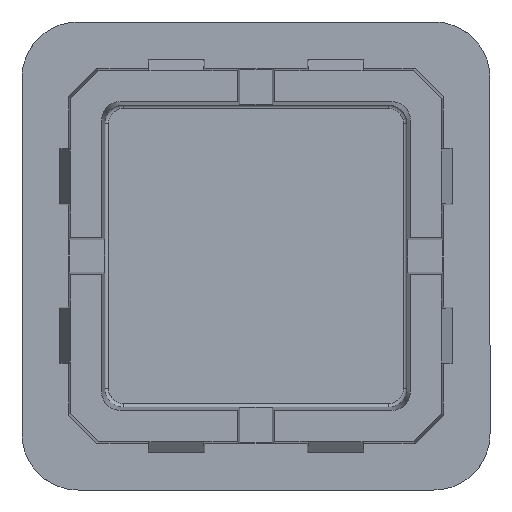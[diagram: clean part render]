
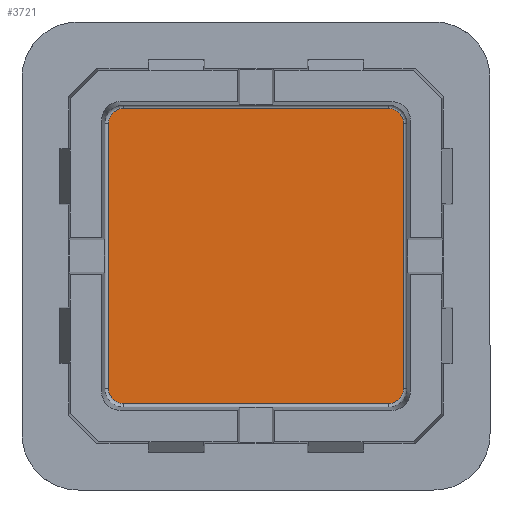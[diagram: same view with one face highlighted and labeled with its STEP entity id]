
A CAD part, front view. The second image highlights one B-rep face of the part: STEP entity #3721.
In plain terms, the highlighted planar face has unit normal (0, -1, 0).
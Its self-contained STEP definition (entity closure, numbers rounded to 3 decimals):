
#22 = VERTEX_POINT ( 'NONE', #3082 ) ;
#186 = EDGE_CURVE ( 'NONE', #352, #2638, #1889, .T. ) ;
#226 = CARTESIAN_POINT ( 'NONE',  ( -7.879, 0.5, -7.076 ) ) ;
#232 = EDGE_CURVE ( 'NONE', #2812, #1687, #1315, .T. ) ;
#352 = VERTEX_POINT ( 'NONE', #992 ) ;
#401 = VERTEX_POINT ( 'NONE', #3693 ) ;
#417 = CARTESIAN_POINT ( 'NONE',  ( -7.076, 0.5, 7.879 ) ) ;
#510 = ORIENTED_EDGE ( 'NONE', *, *, #710, .T. ) ;
#561 = CARTESIAN_POINT ( 'NONE',  ( -7.079, 0.5, 7.879 ) ) ;
#635 = DIRECTION ( 'NONE',  ( 0., 0., 1. ) ) ;
#710 = EDGE_CURVE ( 'NONE', #22, #1329, #824, .T. ) ;
#820 = VERTEX_POINT ( 'NONE', #3871 ) ;
#824 =( BOUNDED_CURVE ( )  B_SPLINE_CURVE ( 3, ( #561, #3188, #2900, #3591 ),
 .UNSPECIFIED., .F., .F. ) 
 B_SPLINE_CURVE_WITH_KNOTS ( ( 4, 4 ),
 ( 2.356, 3.927 ),
 .UNSPECIFIED. ) 
 CURVE ( )  GEOMETRIC_REPRESENTATION_ITEM ( )  RATIONAL_B_SPLINE_CURVE ( ( 1., 0.805, 0.805, 1. ) ) 
 REPRESENTATION_ITEM ( '' )  );
#885 = EDGE_CURVE ( 'NONE', #820, #352, #1448, .T. ) ;
#992 = CARTESIAN_POINT ( 'NONE',  ( 7.079, 0.5, -7.879 ) ) ;
#1051 = CARTESIAN_POINT ( 'NONE',  ( 7.879, 0.5, 7.076 ) ) ;
#1186 = VECTOR ( 'NONE', #3589, 1000. ) ;
#1188 = CARTESIAN_POINT ( 'NONE',  ( 7.879, 0.5, 7.079 ) ) ;
#1225 = DIRECTION ( 'NONE',  ( 0., 0., -1. ) ) ;
#1315 =( BOUNDED_CURVE ( )  B_SPLINE_CURVE ( 3, ( #1581, #3894, #1926, #4233 ),
 .UNSPECIFIED., .F., .F. ) 
 B_SPLINE_CURVE_WITH_KNOTS ( ( 4, 4 ),
 ( 2.356, 3.927 ),
 .UNSPECIFIED. ) 
 CURVE ( )  GEOMETRIC_REPRESENTATION_ITEM ( )  RATIONAL_B_SPLINE_CURVE ( ( 1., 0.805, 0.805, 1. ) ) 
 REPRESENTATION_ITEM ( '' )  );
#1329 = VERTEX_POINT ( 'NONE', #1469 ) ;
#1448 = LINE ( 'NONE', #3602, #1186 ) ;
#1469 = CARTESIAN_POINT ( 'NONE',  ( -7.879, 0.5, 7.079 ) ) ;
#1565 = ORIENTED_EDGE ( 'NONE', *, *, #186, .T. ) ;
#1581 = CARTESIAN_POINT ( 'NONE',  ( 7.879, 0.5, 7.079 ) ) ;
#1619 = CARTESIAN_POINT ( 'NONE',  ( 7.548, 0.5, -7.879 ) ) ;
#1631 = DIRECTION ( 'NONE',  ( -1., 0., 0. ) ) ;
#1634 = CARTESIAN_POINT ( 'NONE',  ( 7.879, 0.5, -7.548 ) ) ;
#1642 = AXIS2_PLACEMENT_3D ( 'NONE', #4257, #2602, #635 ) ;
#1687 = VERTEX_POINT ( 'NONE', #3429 ) ;
#1889 =( BOUNDED_CURVE ( )  B_SPLINE_CURVE ( 3, ( #2923, #1619, #1634, #3227 ),
 .UNSPECIFIED., .F., .F. ) 
 B_SPLINE_CURVE_WITH_KNOTS ( ( 4, 4 ),
 ( 2.356, 3.927 ),
 .UNSPECIFIED. ) 
 CURVE ( )  GEOMETRIC_REPRESENTATION_ITEM ( )  RATIONAL_B_SPLINE_CURVE ( ( 1., 0.805, 0.805, 1. ) ) 
 REPRESENTATION_ITEM ( '' )  );
#1926 = CARTESIAN_POINT ( 'NONE',  ( 7.548, 0.5, 7.879 ) ) ;
#1960 = PLANE ( 'NONE',  #1642 ) ;
#2158 = ORIENTED_EDGE ( 'NONE', *, *, #3700, .T. ) ;
#2233 = EDGE_CURVE ( 'NONE', #1329, #401, #2379, .T. ) ;
#2379 = LINE ( 'NONE', #226, #3152 ) ;
#2502 = LINE ( 'NONE', #417, #2809 ) ;
#2583 = ORIENTED_EDGE ( 'NONE', *, *, #885, .T. ) ;
#2600 = FACE_OUTER_BOUND ( 'NONE', #3907, .T. ) ;
#2602 = DIRECTION ( 'NONE',  ( 0., 1., 0. ) ) ;
#2638 = VERTEX_POINT ( 'NONE', #3406 ) ;
#2655 = VECTOR ( 'NONE', #3710, 1000. ) ;
#2671 = EDGE_CURVE ( 'NONE', #401, #820, #4130, .T. ) ;
#2809 = VECTOR ( 'NONE', #1631, 1000. ) ;
#2812 = VERTEX_POINT ( 'NONE', #1188 ) ;
#2900 = CARTESIAN_POINT ( 'NONE',  ( -7.879, 0.5, 7.548 ) ) ;
#2923 = CARTESIAN_POINT ( 'NONE',  ( 7.079, 0.5, -7.879 ) ) ;
#3009 = EDGE_CURVE ( 'NONE', #2638, #2812, #3068, .T. ) ;
#3023 = ORIENTED_EDGE ( 'NONE', *, *, #232, .T. ) ;
#3068 = LINE ( 'NONE', #1051, #2655 ) ;
#3082 = CARTESIAN_POINT ( 'NONE',  ( -7.079, 0.5, 7.879 ) ) ;
#3146 = CARTESIAN_POINT ( 'NONE',  ( -7.548, 0.5, -7.879 ) ) ;
#3152 = VECTOR ( 'NONE', #1225, 1000. ) ;
#3188 = CARTESIAN_POINT ( 'NONE',  ( -7.548, 0.5, 7.879 ) ) ;
#3227 = CARTESIAN_POINT ( 'NONE',  ( 7.879, 0.5, -7.079 ) ) ;
#3406 = CARTESIAN_POINT ( 'NONE',  ( 7.879, 0.5, -7.079 ) ) ;
#3429 = CARTESIAN_POINT ( 'NONE',  ( 7.079, 0.5, 7.879 ) ) ;
#3520 = CARTESIAN_POINT ( 'NONE',  ( -7.879, 0.5, -7.079 ) ) ;
#3536 = CARTESIAN_POINT ( 'NONE',  ( -7.879, 0.5, -7.548 ) ) ;
#3589 = DIRECTION ( 'NONE',  ( 1., 0., 0. ) ) ;
#3591 = CARTESIAN_POINT ( 'NONE',  ( -7.879, 0.5, 7.079 ) ) ;
#3602 = CARTESIAN_POINT ( 'NONE',  ( 7.076, 0.5, -7.879 ) ) ;
#3621 = ORIENTED_EDGE ( 'NONE', *, *, #2671, .T. ) ;
#3693 = CARTESIAN_POINT ( 'NONE',  ( -7.879, 0.5, -7.079 ) ) ;
#3700 = EDGE_CURVE ( 'NONE', #1687, #22, #2502, .T. ) ;
#3710 = DIRECTION ( 'NONE',  ( 0., 0., 1. ) ) ;
#3721 = ADVANCED_FACE ( 'NONE', ( #2600 ), #1960, .F. ) ;
#3871 = CARTESIAN_POINT ( 'NONE',  ( -7.079, 0.5, -7.879 ) ) ;
#3894 = CARTESIAN_POINT ( 'NONE',  ( 7.879, 0.5, 7.548 ) ) ;
#3907 = EDGE_LOOP ( 'NONE', ( #4269, #3023, #2158, #510, #4202, #3621, #2583, #1565 ) ) ;
#4130 =( BOUNDED_CURVE ( )  B_SPLINE_CURVE ( 3, ( #3520, #3536, #3146, #4177 ),
 .UNSPECIFIED., .F., .F. ) 
 B_SPLINE_CURVE_WITH_KNOTS ( ( 4, 4 ),
 ( 2.356, 3.927 ),
 .UNSPECIFIED. ) 
 CURVE ( )  GEOMETRIC_REPRESENTATION_ITEM ( )  RATIONAL_B_SPLINE_CURVE ( ( 1., 0.805, 0.805, 1. ) ) 
 REPRESENTATION_ITEM ( '' )  );
#4177 = CARTESIAN_POINT ( 'NONE',  ( -7.079, 0.5, -7.879 ) ) ;
#4202 = ORIENTED_EDGE ( 'NONE', *, *, #2233, .T. ) ;
#4233 = CARTESIAN_POINT ( 'NONE',  ( 7.079, 0.5, 7.879 ) ) ;
#4257 = CARTESIAN_POINT ( 'NONE',  ( 0., 0.5, 0. ) ) ;
#4269 = ORIENTED_EDGE ( 'NONE', *, *, #3009, .T. ) ;
